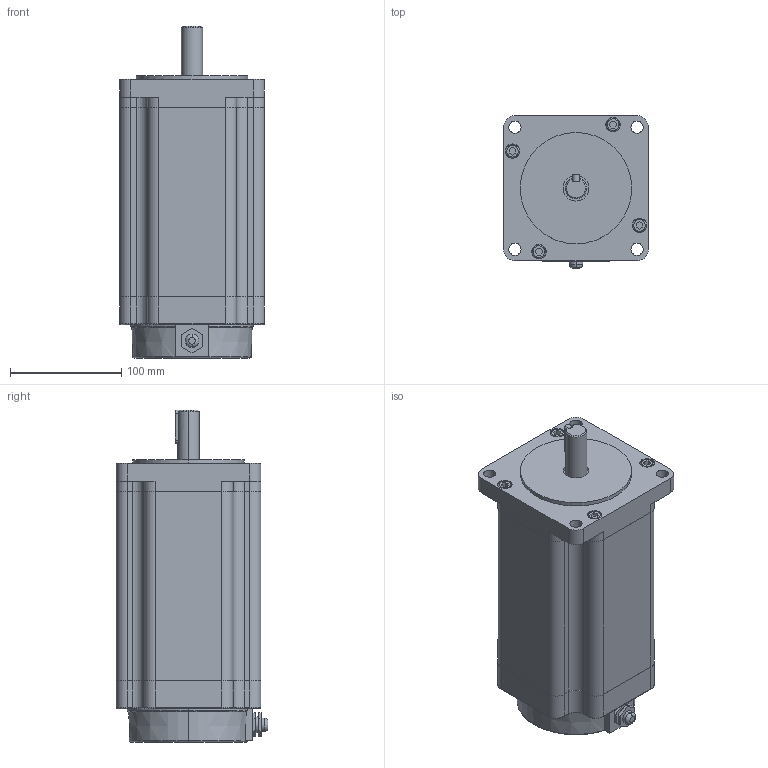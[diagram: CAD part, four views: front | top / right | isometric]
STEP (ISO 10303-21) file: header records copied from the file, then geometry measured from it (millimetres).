
FILE_DESCRIPTION (( 'STEP AP214' ), '1' );
FILE_NAME ('LS130C36-R8J50.STEP', '2021-09-07T07:09:25', ( '' ), ( '' ), 'SwSTEP 2.0', 'SolidWorks 2021', '' );
FILE_SCHEMA (( 'AUTOMOTIVE_DESIGN' ));
Length unit declared in the file: millimetre
Products named in the file (1): LS130C36-R8J50
Bounding box: 130 x 136.37 x 298 mm (x, y, z)
Volume: 3494972.5 mm3; surface area: 158048.8 mm2
Topology: 2 solids, 2 shells, 249 faces, 617 edges, 398 vertices
Faces by surface type: plane 116, cylinder 101, torus 27, cone 5
Entity records: 9696 total; most frequent: DIRECTION 1362, CARTESIAN_POINT 1326, ORIENTED_EDGE 1234, EDGE_CURVE 617, AXIS2_PLACEMENT_3D 502, VERTEX_POINT 398, VECTOR 358, LINE 358
